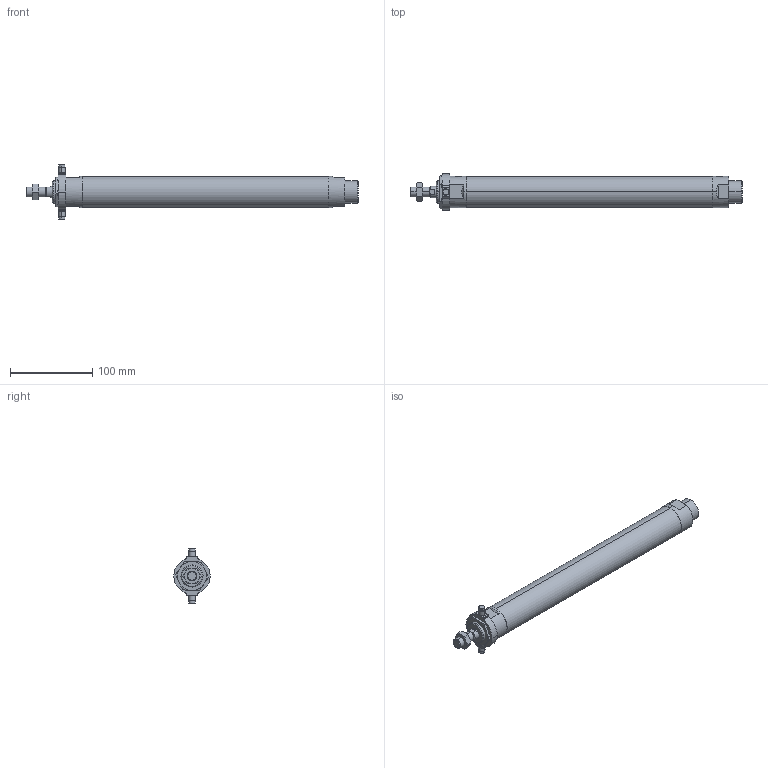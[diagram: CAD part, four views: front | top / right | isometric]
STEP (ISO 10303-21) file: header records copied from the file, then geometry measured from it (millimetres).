
FILE_DESCRIPTION (( 'STEP AP203' ), '1' );
FILE_NAME ('J#2-32-250-T.STEP', '2016-03-08T07:50:46', ( '' ), ( '' ), 'SwSTEP 2.0', 'SolidWorks 2014', '' );
FILE_SCHEMA (( 'CONFIG_CONTROL_DESIGN' ));
Length unit declared in the file: millimetre
Products named in the file (5): J#2-32-T; J#2-32-250; J#2-32-250-T
Assembly tree (4 placements, depth 2):
  J#2-32-250-T
    J#2-32-250
    (unnamed)
    (unnamed)
    J#2-32-T
Bounding box: 403 x 44 x 66 mm (x, y, z)
Volume: 408455.2 mm3; surface area: 54721.8 mm2
Topology: 4 solids, 4 shells, 133 faces, 303 edges, 183 vertices
Faces by surface type: cylinder 43, plane 43, torus 24, cone 23
Entity records: 4649 total; most frequent: CARTESIAN_POINT 1181, DIRECTION 640, ORIENTED_EDGE 598, EDGE_CURVE 299, AXIS2_PLACEMENT_3D 264, VERTEX_POINT 183, EDGE_LOOP 148, ADVANCED_FACE 133
